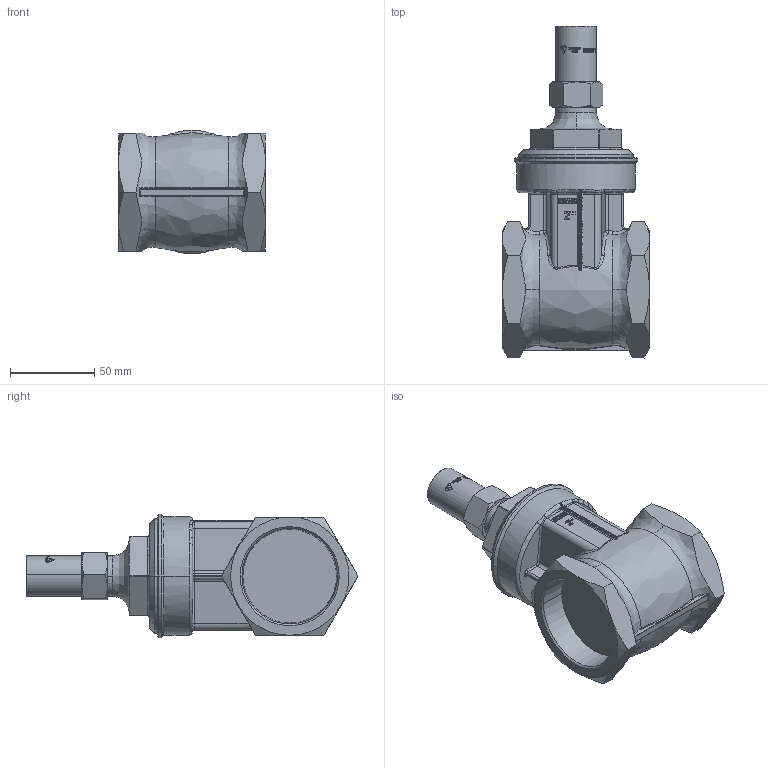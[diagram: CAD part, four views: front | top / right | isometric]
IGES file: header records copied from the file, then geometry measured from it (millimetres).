
Global section: file name: No Iges File Name specified; native system: AutoDesk Inventor R12.0; preprocessor: AutoDesk Inventor Iges Exporter R12.0; date: 20110314.100015; units: millimetre
Bounding box: 87 x 196.51 x 73.2 mm (x, y, z)
Volume: 456926.1 mm3; surface area: 59694 mm2
Topology: 1 solids, 1 shells, 915 faces, 2395 edges, 1549 vertices
Faces by surface type: plane 372, bspline 361, cylinder 71, cone 52, revolution 51, torus 8
